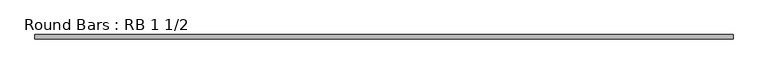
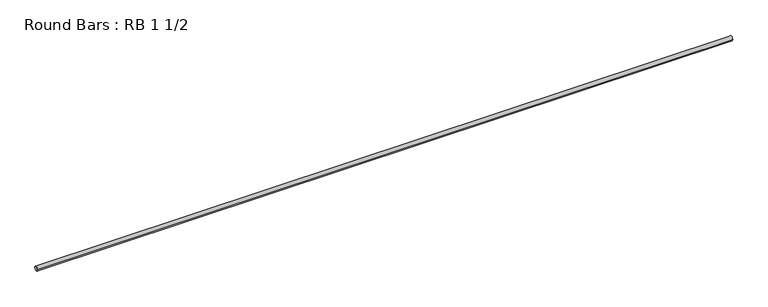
"""IFC4 building model written with IfcOpenShell, lengths in millimetres: member geometry, Round Bars : RB 1 1/2."""

from ifc_helpers import new_model, si_unit, point, frame, origin, origin_2d, place, context, project, spatial, circle_curve, trimmed, segment, composite_curve, outline, extrude, source, transform, mapped, element, save


def round_bars_rb_1_1_2_d22825d3(model_context):
    return source(origin(), model_context, "Body", "SweptSolid", [
        extrude(outline(composite_curve([segment(trimmed(circle_curve(origin_2d(), 19.05), [point((19.05, 0.0))], [point((-19.05, 0.0))], False, "CARTESIAN"), True, "CONTINUOUS"), segment(trimmed(circle_curve(origin_2d(), 19.05), [point((-19.05, 0.0))], [point((19.05, 0.0))], False, "CARTESIAN"), True, "CONTINUOUS")], self_intersect=False)), frame((-3167.6901224, 0.0, 0.0), z_axis=(1.0, 0.0, 0.0), x_axis=(0.0, 1.0, 0.0)), (0.0, 0.0, 1.0), 6001.8542625),
    ])


if __name__ == "__main__":
    model = new_model("IFC4")
    model_context = context("Model", 3, world=origin())
    ifc_project = project(units=[si_unit("LENGTHUNIT", "METRE", prefix="MILLI")], contexts=[model_context])
    site = spatial("IfcSite", under=ifc_project)
    building = spatial("IfcBuilding", under=site)
    placement = place(None, origin())
    round_bars_rb_1_1_2_shape = round_bars_rb_1_1_2_d22825d3(model_context)
    element("IfcMember", 1, ObjectType="Round Bars : RB 1 1/2", at=placement, inside=building, context=model_context, shape_type="MappedRepresentation", body=[
        mapped(round_bars_rb_1_1_2_shape, transform((0.0, 0.0, 0.0), x_axis=(1.0, 0.0, 0.0), y_axis=(0.0, 1.0, 0.0), z_axis=(0.0, 0.0, 1.0))),
    ])
    save(model, "model.ifc")
